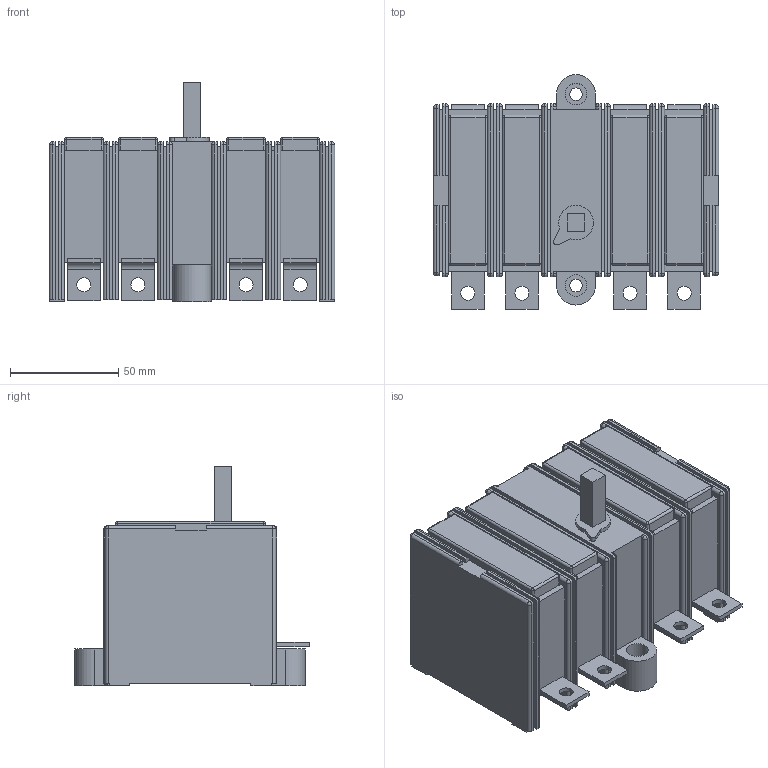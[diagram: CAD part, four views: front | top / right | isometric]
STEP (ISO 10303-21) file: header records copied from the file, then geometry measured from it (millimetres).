
FILE_DESCRIPTION(/* description */ (''),/* implementation_level */ '2;1');
FILE_NAME(/* name */ 'RA100 P3 NA, RA100 P4 A.stp',/* time_stamp */ '2021-08-17T12:28:57+02:00',/* author */ (''),/* organization */ (''),/* preprocessor_version */ 'ST-DEVELOPER v18.1',/* originating_system */ 'SIEMENS PLM Software NX 1965',/* authorisation */ '');
FILE_SCHEMA (('AUTOMOTIVE_DESIGN { 1 0 10303 214 3 1 1 1 }'));
Length unit declared in the file: millimetre
Products named in the file (1): RA100 P3 NA, RA100 P4 A_stp
Bounding box: 132 x 108.51 x 101.5 mm (x, y, z)
Volume: 660030.9 mm3; surface area: 77873.4 mm2
Topology: 1 solids, 1 shells, 379 faces, 1021 edges, 608 vertices
Faces by surface type: plane 217, cylinder 122, sphere 39, bspline 1
Full cylindrical faces by diameter (mm): 5.8 x2, 6.5 x8, 10 x2
Entity records: 11390 total; most frequent: CARTESIAN_POINT 1995, DIRECTION 1964, ORIENTED_EDGE 1934, EDGE_CURVE 967, LINE 722, VECTOR 722, AXIS2_PLACEMENT_3D 621, VERTEX_POINT 606
